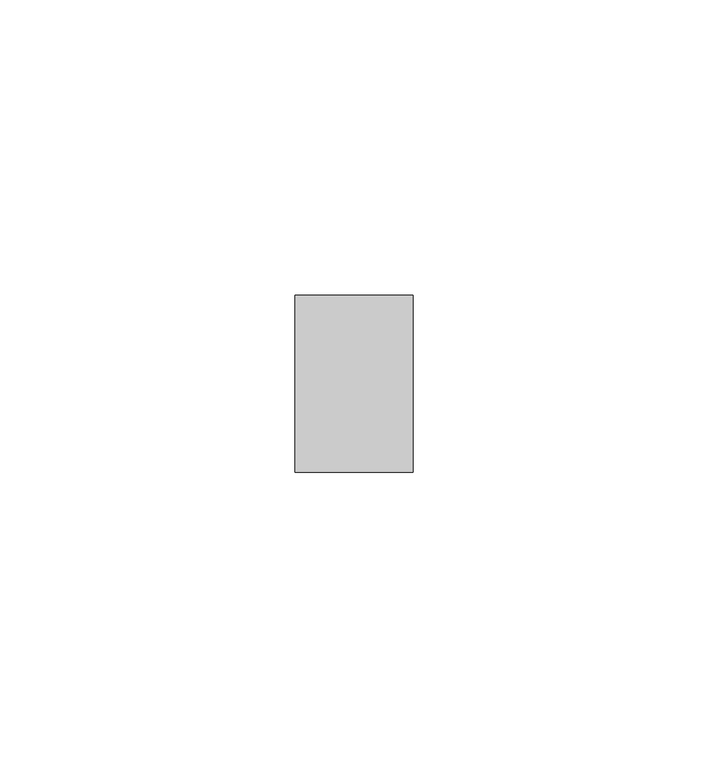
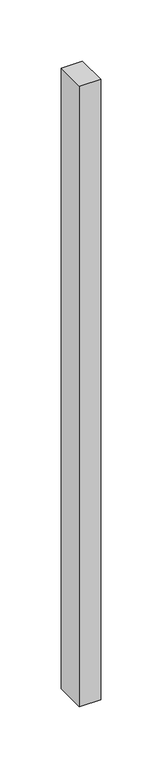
"""IFC4 building model written with IfcOpenShell, lengths in millimetres: member geometry, Прямоугольный импост : Квадрат 10 мм - Зазор между навесными плитами."""

import ifcopenshell
import ifcopenshell.guid

model = None  # the IFC model being written
_history = None  # IfcOwnerHistory: only IFC2X3 demands one
_inside = {}  # id of a spatial element -> (the spatial element, [elements in it])
_under = {}  # id of a project, library or spatial element -> (it, [spatial elements below it])
_declared = {}  # id of a project -> (the project, [libraries it declares])
_typed = {}  # id of a type object -> (the type object, [elements of that type])
_made_of = {}  # id of a material, layer set ... -> (it, [elements and type objects made of it])


def new_model(schema):
    """Start an empty IFC model of exactly this schema.

    Asked for "IFC4X3", IfcOpenShell would pick the latest addendum, in which some entities
    have other attributes; the version numbers below select the first issue.
    IFC2X3 requires an IfcOwnerHistory on every rooted entity: one is made here for all.
    """
    global model, _history
    if schema == "IFC4X3":
        model = ifcopenshell.file(schema_version=(4, 3, 0, 0))
    else:
        model = ifcopenshell.file(schema=schema)
    _inside.clear()
    _under.clear()
    _declared.clear()
    _typed.clear()
    _made_of.clear()
    _history = None
    if model.schema == "IFC2X3":
        org = make("IfcOrganization", Name="unknown")
        user = make(
            "IfcPersonAndOrganization",
            ThePerson=make("IfcPerson", FamilyName="unknown"),
            TheOrganization=org,
        )
        app = make(
            "IfcApplication",
            ApplicationDeveloper=org,
            Version="unknown",
            ApplicationFullName="unknown",
            ApplicationIdentifier="unknown",
        )
        _history = make(
            "IfcOwnerHistory",
            OwningUser=user,
            OwningApplication=app,
            ChangeAction="ADDED",
            CreationDate=0,
        )
    return model


def make(cls, **values):
    """One entity of the class cls with the attributes given. An attribute that is None is left unset."""
    return model.create_entity(
        cls, **{name: value for name, value in values.items() if value is not None}
    )


def rooted(cls, **values):
    """An entity with a GlobalId (a new one), such as an element, a storey or a relation."""
    return make(cls, GlobalId=ifcopenshell.guid.new(), OwnerHistory=_history, **values)


def si_unit(unit_type, name, prefix=None):
    """IfcSIUnit, for example si_unit("LENGTHUNIT", "METRE", prefix="MILLI")."""
    return make("IfcSIUnit", UnitType=unit_type, Prefix=prefix, Name=name)


def assignment(units):
    """IfcUnitAssignment: the units of a project."""
    return None if units is None else make("IfcUnitAssignment", Units=units)


def point(xyz):
    """IfcCartesianPoint."""
    return None if xyz is None else make("IfcCartesianPoint", Coordinates=xyz)


def direction(xyz):
    """IfcDirection."""
    return None if xyz is None else make("IfcDirection", DirectionRatios=xyz)


def frame(location, z_axis=None, x_axis=None):
    """IfcAxis2Placement3D, a coordinate frame: its origin and axes. An axis left out is left unset."""
    return make(
        "IfcAxis2Placement3D",
        Location=point(location),
        Axis=direction(z_axis),
        RefDirection=direction(x_axis),
    )


def origin():
    """The frame at (0, 0, 0) with its axes left unset."""
    return frame((0.0, 0.0, 0.0))


def place(relative_to, where):
    """IfcLocalPlacement: puts the frame where relative to a parent placement (None: the world)."""
    return make(
        "IfcLocalPlacement", PlacementRelTo=relative_to, RelativePlacement=where
    )


def context(
    kind, dimensions, precision=None, world=None, true_north=None, identifier=None
):
    """IfcGeometricRepresentationContext, for example the 3D "Model" context."""
    return make(
        "IfcGeometricRepresentationContext",
        ContextIdentifier=identifier,
        ContextType=kind,
        CoordinateSpaceDimension=dimensions,
        Precision=precision,
        WorldCoordinateSystem=world,
        TrueNorth=true_north,
    )


def project(units=None, contexts=None):
    """IfcProject with its units and contexts."""
    return rooted(
        "IfcProject",
        Name="project",
        RepresentationContexts=contexts,
        UnitsInContext=assignment(units),
    )


def spatial(cls, under=None, at=None, **own):
    """A site, building, storey or space (cls), placed at a placement, below another one or the project."""
    s = rooted(cls, ObjectPlacement=at, **own)
    if under is not None:
        _under.setdefault(under.id(), (under, []))[1].append(s)
    return s


def polyline(points):
    """IfcPolyline through the points."""
    return make("IfcPolyline", Points=[point(p) for p in points])


def outline(outer, holes=None, kind="AREA"):
    """IfcArbitraryClosedProfileDef: a profile drawn as a closed curve; with holes, ...WithVoids."""
    if holes is None:
        return make("IfcArbitraryClosedProfileDef", ProfileType=kind, OuterCurve=outer)
    return make(
        "IfcArbitraryProfileDefWithVoids",
        ProfileType=kind,
        OuterCurve=outer,
        InnerCurves=holes,
    )


def extrude(swept, where, along, depth):
    """IfcExtrudedAreaSolid: the profile swept, set in the frame where, extruded along a direction by depth."""
    return make(
        "IfcExtrudedAreaSolid",
        SweptArea=swept,
        Position=where,
        ExtrudedDirection=direction(along),
        Depth=depth,
    )


def shape(context_of_items, identifier, shape_type, items):
    """IfcShapeRepresentation: the items that make up one representation, for example the "Body"."""
    return make(
        "IfcShapeRepresentation",
        ContextOfItems=context_of_items,
        RepresentationIdentifier=identifier,
        RepresentationType=shape_type,
        Items=items,
    )


def source(mapping_origin, context_of_items, identifier, shape_type, items):
    """IfcRepresentationMap: a shape defined once, which mapped items show again and again."""
    return make(
        "IfcRepresentationMap",
        MappingOrigin=mapping_origin,
        MappedRepresentation=shape(context_of_items, identifier, shape_type, items),
    )


def transform(
    local_origin,
    x_axis=None,
    y_axis=None,
    z_axis=None,
    scale=None,
    scale2=None,
    scale3=None,
    uniform=True,
):
    """IfcCartesianTransformationOperator3D, or its non-uniform kind. x_axis, y_axis, z_axis: its Axis1, 2, 3."""
    if uniform:
        return make(
            "IfcCartesianTransformationOperator3D",
            Axis1=direction(x_axis),
            Axis2=direction(y_axis),
            LocalOrigin=point(local_origin),
            Scale=scale,
            Axis3=direction(z_axis),
        )
    return make(
        "IfcCartesianTransformationOperator3DnonUniform",
        Axis1=direction(x_axis),
        Axis2=direction(y_axis),
        LocalOrigin=point(local_origin),
        Scale=scale,
        Axis3=direction(z_axis),
        Scale2=scale2,
        Scale3=scale3,
    )


def mapped(mapping_source, mapping_target):
    """IfcMappedItem: shows the shape of a source again, moved by a transform."""
    return make(
        "IfcMappedItem", MappingSource=mapping_source, MappingTarget=mapping_target
    )


def made_of(thing, what):
    """Note that an element or type object is made of a material, layer set ...; save() writes the relation."""
    if what is not None:
        _made_of.setdefault(what.id(), (what, []))[1].append(thing)
    return thing


def element(
    cls,
    number,
    at=None,
    inside=None,
    cuts=None,
    type_object=None,
    material=None,
    context=None,
    identifier="Body",
    shape_type=None,
    held_by="IfcProductDefinitionShape",
    body=None,
    shapes=None,
    **own,
):
    """One element of the class cls, such as IfcWall. Its Tag is "e" and its number.

    at: its placement. inside: the storey or other place that contains it. cuts: it is an
    opening in that element (IfcRelVoidsElement). A single representation is given by context,
    identifier, shape_type and body (its items); several are given by shapes. held_by: the class
    of the entity that holds the representations. save() writes the other relations.
    """
    e = rooted(cls, Tag="e%d" % number, ObjectPlacement=at, **own)
    if body is not None:
        shapes = [shape(context, identifier, shape_type, body)]
    if shapes is not None:
        e.Representation = make(held_by, Representations=shapes)
    if inside is not None:
        _inside.setdefault(inside.id(), (inside, []))[1].append(e)
    if cuts is not None:
        rooted(
            "IfcRelVoidsElement", RelatingBuildingElement=cuts, RelatedOpeningElement=e
        )
    if type_object is not None:
        _typed.setdefault(type_object.id(), (type_object, []))[1].append(e)
    return made_of(e, material)


def aggregate(whole, parts):
    """IfcRelAggregates: a whole, such as a stair, and the parts it consists of."""
    return rooted("IfcRelAggregates", RelatingObject=whole, RelatedObjects=parts)


def save(model, path):
    """Write the relations noted so far, then the file.

    IfcRelAggregates (storeys below a building ...), IfcRelContainedInSpatialStructure (elements
    in a storey), IfcRelDefinesByType, IfcRelAssociatesMaterial and IfcRelDeclares: one each for
    every whole, place, type object, material and project.
    """
    for whole, parts in _under.values():
        aggregate(whole, parts)
    for where, things in _inside.values():
        rooted(
            "IfcRelContainedInSpatialStructure",
            RelatedElements=things,
            RelatingStructure=where,
        )
    for kind, things in _typed.values():
        rooted("IfcRelDefinesByType", RelatedObjects=things, RelatingType=kind)
    for what, things in _made_of.values():
        rooted("IfcRelAssociatesMaterial", RelatedObjects=things, RelatingMaterial=what)
    for by, libraries in _declared.values():
        rooted("IfcRelDeclares", RelatingContext=by, RelatedDefinitions=libraries)
    model.write(path)


def member_1cf861d3(model_context):
    return source(origin(), model_context, "Body", "SweptSolid", [
        extrude(outline(polyline([(0.0, 15.0), (0.0, -15.0), (-20.0, -15.0), (-20.0, 15.0), (0.0, 15.0)])), frame((0.0, 0.0, -620.0), z_axis=(0.0, 0.0, 1.0), x_axis=(1.0, 0.0, 0.0)), (0.0, 0.0, 1.0), 620.0),
    ])


if __name__ == "__main__":
    model = new_model("IFC4")
    model_context = context("Model", 3, world=origin())
    ifc_project = project(units=[si_unit("LENGTHUNIT", "METRE", prefix="MILLI")], contexts=[model_context])
    site = spatial("IfcSite", under=ifc_project)
    building = spatial("IfcBuilding", under=site)
    placement = place(None, origin())
    member_shape = member_1cf861d3(model_context)
    element("IfcMember", 1, ObjectType="Прямоугольный импост : Квадрат 10 мм - Зазор между навесными плитами", at=placement, inside=building, context=model_context, shape_type="MappedRepresentation", body=[
        mapped(member_shape, transform((0.0, 0.0, 0.0), x_axis=(1.0, 0.0, 0.0), y_axis=(0.0, 1.0, 0.0), z_axis=(0.0, 0.0, 1.0))),
    ])
    save(model, "model.ifc")
